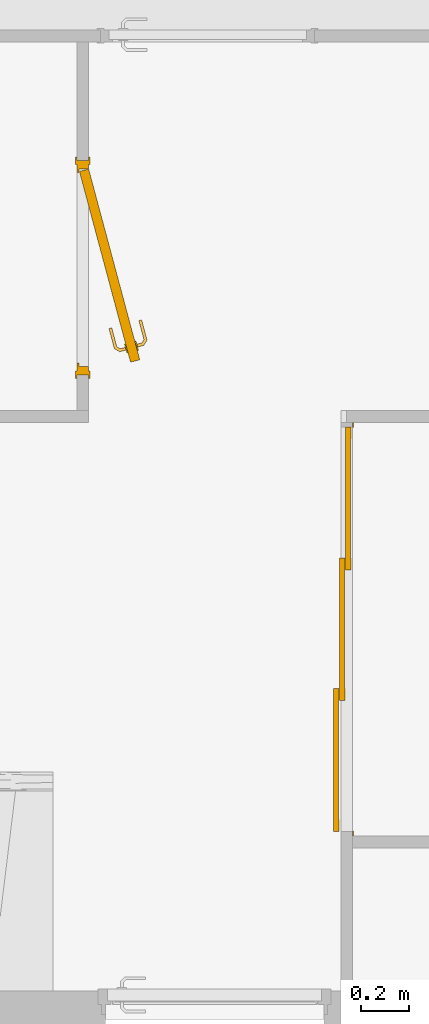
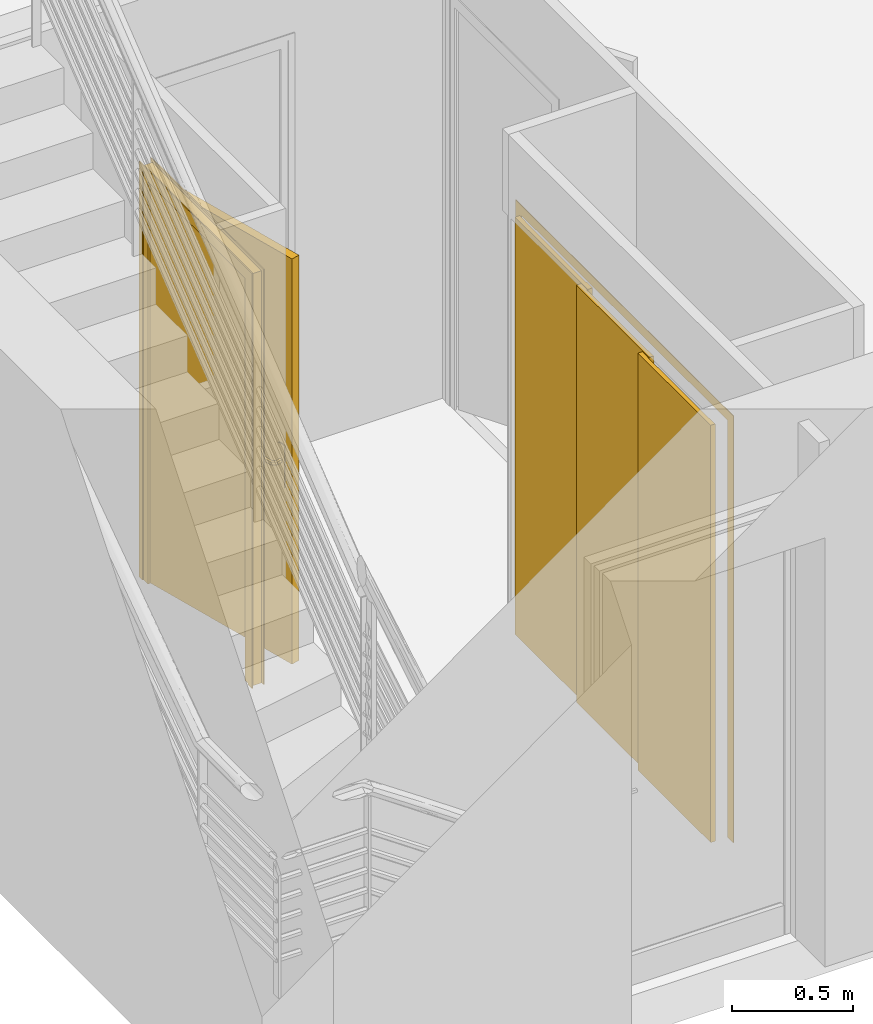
# One storey, part 6 of 13: 2 doors.
"""IFC2X3 building model written with IfcOpenShell, lengths in millimetres."""

from ifc_helpers import new_model, entity, si_unit, converted_unit, direction, frame, origin, origin_with_axes, place, context, project, spatial, faceted_brep, element, save


model = new_model("IFC2X3")

# Units and contexts
model_context = context("Model", 3, precision=1e-05, world=origin(), true_north=direction((0.0, 1.0, 0.0)))
ifc_project = project(units=[si_unit("LENGTHUNIT", "METRE", prefix="MILLI"), si_unit("AREAUNIT", "SQUARE_METRE"), si_unit("VOLUMEUNIT", "CUBIC_METRE"), converted_unit("PLANEANGLEUNIT", "DEGREE", entity("IfcPlaneAngleMeasure", 0.01745), si_unit("PLANEANGLEUNIT", "RADIAN"), dimensions=[0, 0, 0, 0, 0, 0, 0]), si_unit("SOLIDANGLEUNIT", "STERADIAN"), si_unit("MASSUNIT", "GRAM"), si_unit("TIMEUNIT", "SECOND"), si_unit("THERMODYNAMICTEMPERATUREUNIT", "DEGREE_CELSIUS"), si_unit("LUMINOUSINTENSITYUNIT", "LUMEN")], contexts=[model_context])

# Site, building, storey
placement = place(None, origin_with_axes())
site_placement = place(placement, frame((11636.08881703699, 2815.7442167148, 4.768371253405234e-06), z_axis=(0.0, 0.0, 1.0), x_axis=(1.0, 0.0, 0.0)))
site = spatial("IfcSite", under=ifc_project, at=site_placement, Name="Surface", CompositionType="ELEMENT")
building_placement = place(placement, origin_with_axes())
building = spatial("IfcBuilding", under=site, at=building_placement, Name="Default Building", CompositionType="ELEMENT")
storey_placement = place(building_placement, origin_with_axes())
storey = spatial("IfcBuildingStorey", under=building, at=storey_placement, Name="Rez de chaussée", CompositionType="ELEMENT", Elevation=0.0)

# Doors
door_1_placement = place(storey_placement, frame((11636.08881703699, 2815.7442167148, 4.768371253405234e-06), z_axis=(0.0, 0.0, 1.0), x_axis=(1.0, 0.0, 0.0)))
element("IfcDoor", 1, at=door_1_placement, inside=storey, Name="IfcDoor - Int. Simple:PP (0.83m x 2.04m)", context=model_context, shape_type="Brep", body=[
    faceted_brep([(-9941.088819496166, 129.2557809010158, 4.291534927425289e-05), (-9946.088818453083, 99.25577970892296, 4.291534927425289e-05), (-9946.088818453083, 129.2557809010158, 4.291534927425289e-05), (-9941.088819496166, 99.25577970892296, 4.291534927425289e-05), (-9941.088819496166, 999.2557856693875, 4.291534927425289e-05), (-9946.088818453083, 1029.25578686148, 4.291534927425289e-05), (-9941.088819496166, 1029.25578686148, 4.291534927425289e-05), (-9946.088818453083, 999.2557856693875, 4.291534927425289e-05), (-9941.088819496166, 129.2557809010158, 2059.99998569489), (-9946.088818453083, 999.2557856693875, 2059.99998569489), (-9941.088819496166, 999.2557856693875, 2059.99998569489), (-9946.088818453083, 129.2557809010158, 2059.99998569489), (-9946.088818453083, 99.25577970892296, 2089.999957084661), (-9941.088819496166, 1029.25578686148, 2089.999957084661), (-9946.088818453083, 1029.25578686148, 2089.999957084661), (-9941.088819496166, 99.25577970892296, 2089.999957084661), (-9996.088819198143, 129.2557809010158, 2059.99998569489), (-10001.08881815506, 999.2557856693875, 2059.99998569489), (-9996.088819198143, 999.2557856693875, 2059.99998569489), (-10001.08881815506, 129.2557809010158, 2059.99998569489), (-10001.08881815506, 99.25577970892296, 2089.999957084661), (-9996.088819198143, 1029.25578686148, 2089.999957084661), (-10001.08881815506, 1029.25578686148, 2089.999957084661), (-9996.088819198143, 99.25577970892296, 2089.999957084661), (-9996.088819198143, 1029.25578686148, 4.291534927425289e-05), (-10001.08881815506, 1029.25578686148, 4.291534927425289e-05), (-10001.08881815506, 999.2557856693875, 4.291534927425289e-05), (-9996.088819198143, 999.2557856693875, 4.291534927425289e-05), (-9996.088819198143, 129.2557809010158, 4.291534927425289e-05), (-10001.08881815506, 129.2557809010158, 4.291534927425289e-05), (-10001.08881815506, 99.25577970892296, 4.291534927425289e-05), (-9996.088819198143, 99.25577970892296, 4.291534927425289e-05), (-9946.088818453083, 149.2557916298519, 2040.000004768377), (-9986.088818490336, 979.2557749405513, 2040.000004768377), (-9946.088818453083, 979.2557749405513, 2040.000004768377), (-9986.088818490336, 149.2557916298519, 2040.000004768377), (-9986.088818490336, 164.2557773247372, 2025.000019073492), (-9996.088819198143, 964.2557892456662, 2025.000019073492), (-9986.088818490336, 964.2557892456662, 2025.000019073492), (-9996.088819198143, 164.2557773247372, 2025.000019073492), (-9996.088819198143, 114.2557952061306, 2074.999971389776), (-9946.088818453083, 1014.255771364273, 2074.999971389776), (-9996.088819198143, 1014.255771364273, 2074.999971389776), (-9946.088818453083, 114.2557952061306, 2074.999971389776), (-9986.088818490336, 979.2557749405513, 4.291534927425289e-05), (-9946.088818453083, 979.2557749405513, 4.291534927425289e-05), (-9996.088819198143, 964.2557892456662, 4.291534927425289e-05), (-9986.088818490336, 964.2557892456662, 4.291534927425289e-05), (-9996.088819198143, 1014.255771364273, 4.291534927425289e-05), (-9946.088818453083, 1014.255771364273, 4.291534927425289e-05), (-9946.088818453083, 149.2557916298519, 4.291534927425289e-05), (-9946.088818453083, 114.2557952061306, 4.291534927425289e-05), (-9986.088818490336, 149.2557916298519, 4.291534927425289e-05), (-9986.088818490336, 164.2557773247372, 4.291534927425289e-05), (-9996.088819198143, 164.2557773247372, 4.291534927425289e-05), (-9996.088819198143, 114.2557952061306, 4.291534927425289e-05), (-9769.906043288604, 167.1845823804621, 2039.999980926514), (-9731.269016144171, 177.5373429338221, 1.907348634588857e-05), (-9731.269016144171, 177.5373429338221, 2039.999980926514), (-9769.906043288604, 167.1845823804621, 1.907348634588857e-05), (-9946.088819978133, 979.2557865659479, 1.907348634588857e-05), (-9984.725847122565, 968.9030260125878, 1.907348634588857e-05), (-9946.088819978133, 979.2557865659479, 2039.999980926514), (-9984.725847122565, 968.9030260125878, 2039.999980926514), (-9834.49478924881, 226.6552981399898, 992.2195583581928), (-9843.869925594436, 269.4689247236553, 992.1213131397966), (-9831.016463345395, 229.3243121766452, 992.2195583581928), (-9848.242716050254, 262.6061805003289, 992.99999922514), (-9852.81080857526, 310.6619093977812, 992.2195583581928), (-9838.287421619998, 271.8169654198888, 992.99999922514), (-9856.723384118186, 309.6135382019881, 992.2195583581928), (-9848.971539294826, 311.6906371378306, 992.99999922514), (-9827.603311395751, 231.943317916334, 992.99999922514), (-9837.907944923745, 224.0362924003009, 992.99999922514), (-9860.56265339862, 308.5848104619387, 992.99999922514), (-9848.242716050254, 262.6061814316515, 1007.000001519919), (-9860.56265339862, 308.5848104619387, 1007.000001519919), (-9837.907944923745, 224.0362924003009, 1007.000001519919), (-9856.723384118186, 309.6135382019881, 1007.780442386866), (-9843.869925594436, 269.4689242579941, 1007.878685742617), (-9852.81080857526, 310.6619093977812, 1007.780442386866), (-9831.016463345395, 229.3243121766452, 1007.780442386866), (-9838.287425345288, 271.8169768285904, 1007.000001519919), (-9834.49478924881, 226.6552981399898, 1007.780442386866), (-9848.971539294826, 311.6906371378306, 1007.000001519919), (-9827.603311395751, 231.943317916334, 1007.000001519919), (-9813.536771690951, 223.8219950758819, 992.99999922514), (-9814.098318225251, 219.5566159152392, 992.2195583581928), (-9814.67058987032, 215.2097907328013, 992.2195583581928), (-9815.232136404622, 210.9444078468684, 992.99999922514), (-9815.232136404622, 210.9444078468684, 1007.000001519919), (-9814.67058987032, 215.2097907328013, 1007.780442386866), (-9814.098318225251, 219.5566159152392, 1007.780442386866), (-9813.536771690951, 223.8219950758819, 1007.000001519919), (-9791.817730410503, 229.6415951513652, 992.99999922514), (-9790.789001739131, 225.8023295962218, 992.2195583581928), (-9789.740630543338, 221.8897503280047, 992.2195583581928), (-9788.711901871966, 218.0504847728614, 992.99999922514), (-9788.711901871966, 218.0504847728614, 1007.000001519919), (-9789.740630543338, 221.8897503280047, 1007.780442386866), (-9790.789001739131, 225.8023295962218, 1007.780442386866), (-9791.817730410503, 229.6415951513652, 1007.000001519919), (-9723.395464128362, 345.3105476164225, 1007.000001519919), (-9711.046972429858, 299.225340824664, 992.99999922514), (-9723.395464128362, 345.3105476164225, 992.99999922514), (-9700.71219012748, 260.6554238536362, 992.99999922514), (-9700.71219012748, 260.6554238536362, 1007.000001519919), (-9727.234733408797, 344.2818161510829, 992.2195583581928), (-9718.279563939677, 303.0355286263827, 992.1213131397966), (-9731.147308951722, 343.2334449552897, 992.2195583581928), (-9709.32439819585, 261.7892420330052, 992.2195583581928), (-9724.288177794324, 302.2777524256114, 992.99999922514), (-9704.977573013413, 261.2169713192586, 992.2195583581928), (-9734.986574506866, 342.2047134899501, 992.99999922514), (-9713.589781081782, 262.3507904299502, 992.99999922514), (-9724.288177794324, 302.2777524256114, 1007.000001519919), (-9713.589781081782, 262.3507904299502, 1007.000001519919), (-9734.986574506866, 342.2047134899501, 1007.000001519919), (-9704.977573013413, 261.2169713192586, 1007.780442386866), (-9718.279563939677, 303.0355286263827, 1007.878685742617), (-9709.32439819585, 261.7892420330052, 1007.780442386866), (-9711.046964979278, 299.2253128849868, 1007.000001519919), (-9731.147308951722, 343.2334449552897, 1007.780442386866), (-9727.234733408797, 344.2818161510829, 1007.780442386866), (-9713.706844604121, 238.1480310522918, 1007.000001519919), (-9713.706844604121, 238.1480310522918, 992.99999922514), (-9716.32585034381, 241.5611830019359, 992.2195583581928), (-9718.994860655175, 245.0395107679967, 992.2195583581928), (-9721.613866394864, 248.4526627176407, 992.99999922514), (-9721.613866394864, 248.4526627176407, 1007.000001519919), (-9718.994860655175, 245.0395107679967, 1007.780442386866), (-9716.32585034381, 241.5611830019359, 1007.780442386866), (-9740.415611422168, 230.9914354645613, 1007.000001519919), (-9740.415611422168, 230.9914354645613, 992.99999922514), (-9741.444339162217, 234.830704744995, 992.2195583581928), (-9742.49271035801, 238.7432802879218, 992.2195583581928), (-9743.521438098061, 242.5825458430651, 992.99999922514), (-9743.521438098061, 242.5825458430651, 1007.000001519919), (-9742.49271035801, 238.7432802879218, 1007.780442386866), (-9741.444339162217, 234.830704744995, 1007.780442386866), (-9790.61156802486, 244.4586523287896, 1079.999996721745), (-9795.441197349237, 243.1645553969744, 870.0000032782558), (-9795.441197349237, 243.1645553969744, 1079.999996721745), (-9790.61156802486, 244.4586523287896, 870.0000032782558), (-9792.944308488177, 233.8460397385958, 866.0039812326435), (-9788.1146791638, 235.1401348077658, 866.0039812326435), (-9790.264816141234, 223.8460418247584, 864.6410167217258), (-9785.435187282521, 225.1401368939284, 864.6410167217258), (-9782.755695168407, 215.1401352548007, 866.0039812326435), (-9787.585324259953, 213.8460401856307, 866.0039812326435), (-9785.088435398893, 204.5275208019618, 870.0000032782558), (-9780.25880624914, 205.8216195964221, 870.0000032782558), (-9785.088435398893, 204.5275208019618, 1079.999996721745), (-9780.25880624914, 205.8216195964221, 1079.999996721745), (-9787.585324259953, 213.8460401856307, 1083.996018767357), (-9782.755695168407, 215.1401352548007, 1083.996018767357), (-9790.264816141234, 223.8460418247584, 1085.358983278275), (-9785.435187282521, 225.1401368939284, 1085.358983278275), (-9788.1146791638, 235.1401348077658, 1083.996018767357), (-9792.944308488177, 233.8460397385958, 1083.996018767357), (-9736.792144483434, 217.4684752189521, 870.0000032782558), (-9741.621774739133, 216.1743801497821, 1079.999996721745), (-9741.621774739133, 216.1743801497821, 870.0000032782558), (-9736.792144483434, 217.4684752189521, 1079.999996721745), (-9744.118661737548, 225.4928958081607, 1083.996018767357), (-9739.289031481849, 226.7869908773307, 1083.996018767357), (-9746.798155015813, 235.4928974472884, 1085.358983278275), (-9741.968524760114, 236.7869925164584, 1085.358983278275), (-9744.64801803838, 246.786992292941, 1083.996018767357), (-9749.477646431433, 245.492897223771, 1083.996018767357), (-9751.974535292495, 254.8114128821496, 1079.999996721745), (-9747.144905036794, 256.1055079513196, 1079.999996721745), (-9751.974535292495, 254.8114128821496, 870.0000032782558), (-9747.144905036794, 256.1055079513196, 870.0000032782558), (-9749.477646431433, 245.492897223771, 866.0039812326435), (-9744.64801803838, 246.786992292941, 866.0039812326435), (-9746.798155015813, 235.4928974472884, 864.6410167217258), (-9741.968524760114, 236.7869925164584, 864.6410167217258), (-9739.289031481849, 226.7869908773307, 866.0039812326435), (-9744.118661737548, 225.4928958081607, 866.0039812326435)], [[[0, 1, 2]], [[0, 3, 1]], [[4, 5, 6]], [[4, 7, 5]], [[8, 9, 10]], [[8, 11, 9]], [[12, 13, 14]], [[12, 15, 13]], [[14, 6, 5]], [[14, 13, 6]], [[10, 7, 4]], [[10, 9, 7]], [[0, 11, 8]], [[0, 2, 11]], [[12, 9, 11]], [[14, 9, 12]], [[14, 7, 9]], [[7, 14, 5]], [[11, 1, 12]], [[1, 11, 2]], [[1, 15, 12]], [[1, 3, 15]], [[13, 10, 6]], [[13, 8, 10]], [[15, 8, 13]], [[15, 0, 8]], [[0, 15, 3]], [[6, 10, 4]], [[16, 17, 18]], [[16, 19, 17]], [[20, 21, 22]], [[20, 23, 21]], [[22, 24, 25]], [[22, 21, 24]], [[18, 26, 27]], [[18, 17, 26]], [[27, 25, 24]], [[27, 26, 25]], [[28, 19, 16]], [[28, 29, 19]], [[20, 17, 19]], [[22, 17, 20]], [[22, 26, 17]], [[26, 22, 25]], [[19, 30, 20]], [[30, 19, 29]], [[30, 23, 20]], [[30, 31, 23]], [[21, 18, 24]], [[21, 16, 18]], [[23, 16, 21]], [[23, 28, 16]], [[28, 23, 31]], [[24, 18, 27]], [[28, 30, 29]], [[28, 31, 30]], [[32, 33, 34]], [[32, 35, 33]], [[36, 37, 38]], [[36, 39, 37]], [[40, 41, 42]], [[40, 43, 41]], [[34, 44, 45]], [[34, 33, 44]], [[38, 46, 47]], [[38, 37, 46]], [[46, 44, 47]], [[48, 44, 46]], [[48, 45, 44]], [[45, 48, 49]], [[42, 49, 48]], [[42, 41, 49]], [[41, 34, 49]], [[41, 32, 34]], [[43, 32, 41]], [[43, 50, 32]], [[50, 43, 51]], [[49, 34, 45]], [[50, 35, 32]], [[50, 52, 35]], [[33, 38, 44]], [[33, 36, 38]], [[35, 36, 33]], [[35, 53, 36]], [[53, 35, 52]], [[44, 38, 47]], [[53, 39, 36]], [[53, 54, 39]], [[40, 54, 55]], [[40, 39, 54]], [[40, 37, 39]], [[42, 37, 40]], [[42, 46, 37]], [[46, 42, 48]], [[55, 43, 40]], [[55, 51, 43]], [[53, 55, 54]], [[52, 55, 53]], [[50, 55, 52]], [[55, 50, 51]], [[56, 57, 58]], [[56, 59, 57]], [[59, 60, 57]], [[59, 61, 60]], [[61, 62, 60]], [[61, 63, 62]], [[63, 58, 62]], [[63, 56, 58]], [[58, 60, 62]], [[58, 57, 60]], [[56, 61, 59]], [[56, 63, 61]], [[64, 65, 66]], [[64, 67, 65]], [[68, 69, 65]], [[70, 68, 65]], [[69, 68, 71]], [[72, 66, 69]], [[65, 69, 66]], [[64, 73, 67]], [[74, 70, 67]], [[67, 70, 65]], [[74, 75, 76]], [[67, 75, 74]], [[73, 75, 67]], [[75, 73, 77]], [[78, 79, 80]], [[81, 82, 79]], [[83, 81, 79]], [[75, 83, 79]], [[77, 83, 75]], [[76, 75, 78]], [[82, 84, 80]], [[85, 82, 81]], [[75, 79, 78]], [[82, 80, 79]], [[84, 72, 71]], [[82, 72, 84]], [[72, 82, 85]], [[76, 70, 74]], [[78, 70, 76]], [[78, 68, 70]], [[80, 68, 78]], [[80, 71, 68]], [[71, 80, 84]], [[66, 86, 87]], [[66, 72, 86]], [[73, 88, 89]], [[73, 64, 88]], [[89, 77, 73]], [[89, 90, 77]], [[83, 90, 91]], [[83, 77, 90]], [[85, 92, 93]], [[85, 81, 92]], [[93, 72, 85]], [[93, 86, 72]], [[87, 94, 95]], [[87, 86, 94]], [[87, 64, 66]], [[87, 88, 64]], [[95, 88, 87]], [[88, 95, 96]], [[89, 96, 97]], [[89, 88, 96]], [[97, 90, 89]], [[97, 98, 90]], [[91, 98, 99]], [[91, 90, 98]], [[83, 92, 81]], [[91, 92, 83]], [[91, 100, 92]], [[100, 91, 99]], [[93, 100, 101]], [[93, 92, 100]], [[101, 86, 93]], [[101, 94, 86]], [[96, 98, 97]], [[96, 99, 98]], [[95, 99, 96]], [[95, 100, 99]], [[94, 100, 95]], [[100, 94, 101]], [[102, 103, 104]], [[102, 105, 103]], [[102, 106, 105]], [[107, 108, 109]], [[110, 111, 108]], [[112, 110, 108]], [[103, 112, 108]], [[105, 112, 103]], [[104, 103, 107]], [[111, 113, 109]], [[114, 111, 110]], [[103, 108, 107]], [[111, 109, 108]], [[115, 114, 116]], [[117, 114, 115]], [[113, 114, 117]], [[118, 119, 120]], [[118, 121, 119]], [[122, 115, 119]], [[123, 122, 119]], [[115, 122, 117]], [[116, 120, 115]], [[119, 115, 120]], [[118, 106, 121]], [[102, 123, 121]], [[121, 123, 119]], [[117, 109, 113]], [[122, 109, 117]], [[122, 107, 109]], [[123, 107, 122]], [[123, 104, 107]], [[104, 123, 102]], [[124, 105, 106]], [[124, 125, 105]], [[112, 125, 126]], [[112, 105, 125]], [[114, 127, 128]], [[114, 110, 127]], [[128, 116, 114]], [[128, 129, 116]], [[120, 129, 130]], [[120, 116, 129]], [[106, 131, 124]], [[106, 118, 131]], [[132, 125, 124]], [[132, 133, 125]], [[126, 133, 134]], [[126, 125, 133]], [[112, 127, 110]], [[126, 127, 112]], [[126, 135, 127]], [[135, 126, 134]], [[128, 135, 136]], [[128, 127, 135]], [[136, 129, 128]], [[136, 137, 129]], [[130, 137, 138]], [[130, 129, 137]], [[130, 118, 120]], [[130, 131, 118]], [[138, 131, 130]], [[131, 138, 139]], [[124, 139, 132]], [[124, 131, 139]], [[136, 138, 137]], [[135, 138, 136]], [[135, 139, 138]], [[134, 139, 135]], [[134, 132, 139]], [[132, 134, 133]], [[140, 141, 142]], [[140, 143, 141]], [[144, 143, 145]], [[144, 141, 143]], [[146, 145, 147]], [[146, 144, 145]], [[148, 146, 147]], [[148, 149, 146]], [[150, 148, 151]], [[150, 149, 148]], [[151, 152, 150]], [[151, 153, 152]], [[154, 153, 155]], [[154, 152, 153]], [[156, 155, 157]], [[156, 154, 155]], [[158, 156, 157]], [[158, 159, 156]], [[142, 158, 140]], [[142, 159, 158]], [[146, 141, 144]], [[149, 141, 146]], [[150, 141, 149]], [[150, 142, 141]], [[150, 159, 142]], [[150, 156, 159]], [[150, 154, 156]], [[154, 150, 152]], [[157, 140, 158]], [[155, 140, 157]], [[153, 140, 155]], [[153, 143, 140]], [[153, 145, 143]], [[153, 147, 145]], [[153, 148, 147]], [[148, 153, 151]], [[160, 161, 162]], [[160, 163, 161]], [[164, 163, 165]], [[164, 161, 163]], [[166, 165, 167]], [[166, 164, 165]], [[168, 166, 167]], [[168, 169, 166]], [[170, 168, 171]], [[170, 169, 168]], [[171, 172, 170]], [[171, 173, 172]], [[174, 173, 175]], [[174, 172, 173]], [[176, 175, 177]], [[176, 174, 175]], [[178, 176, 177]], [[178, 179, 176]], [[162, 178, 160]], [[162, 179, 178]], [[176, 172, 174]], [[179, 172, 176]], [[162, 172, 179]], [[162, 170, 172]], [[162, 169, 170]], [[162, 166, 169]], [[162, 164, 166]], [[164, 162, 161]], [[167, 171, 168]], [[165, 171, 167]], [[163, 171, 165]], [[163, 173, 171]], [[163, 175, 173]], [[163, 177, 175]], [[163, 178, 177]], [[178, 163, 160]]]),
])
door_2_placement = place(storey_placement, frame((11636.08881703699, 2815.7442167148, 4.768371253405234e-06), z_axis=(0.0, 0.0, 1.0), x_axis=(1.0, 0.0, 0.0)))
element("IfcDoor", 2, at=door_2_placement, inside=storey, Name="IfcDoor - Placard coulissante - 3 panneaux:Placard coulissante - 3 panneaux", context=model_context, shape_type="Brep", body=[
    faceted_brep([(-8871.088819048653, -655.7442047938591, 2099.999952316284), (-8891.088818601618, -1255.744228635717, 2099.999952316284), (-8871.088819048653, -1255.744228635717, 2099.999952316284), (-8891.088818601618, -655.7442047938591, 2099.999952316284), (-8871.088819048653, -1255.744228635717, 4.768371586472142e-05), (-8891.088818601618, -655.7442047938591, 4.768371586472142e-05), (-8871.088819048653, -655.7442047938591, 4.768371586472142e-05), (-8891.088818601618, -1255.744228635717, 4.768371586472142e-05), (-8846.088818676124, -105.7441928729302, 2099.999952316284), (-8866.088819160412, -705.7442167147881, 2099.999952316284), (-8846.088818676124, -705.7442167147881, 2099.999952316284), (-8866.088819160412, -105.7441928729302, 2099.999952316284), (-8846.088818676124, -705.7442167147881, 4.768371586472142e-05), (-8866.088819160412, -105.7441928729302, 4.768371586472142e-05), (-8846.088818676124, -105.7441928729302, 4.768371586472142e-05), (-8866.088819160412, -705.7442167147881, 4.768371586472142e-05), (-8916.088818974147, -1205.744216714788, 2099.999952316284), (-8896.08881848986, -1805.744240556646, 2099.999952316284), (-8896.08881848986, -1205.744216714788, 2099.999952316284), (-8916.088818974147, -1805.744240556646, 2099.999952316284), (-8896.08881848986, -1205.744216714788, 4.768371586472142e-05), (-8916.088818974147, -1805.744240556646, 4.768371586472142e-05), (-8916.088818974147, -1205.744216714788, 4.768371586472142e-05), (-8896.08881848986, -1805.744240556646, 4.768371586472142e-05), (-8836.08881883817, -57.74421480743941, 2148.000000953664), (-8836.08881883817, -107.7442267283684, 2098.00004863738), (-8836.08881883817, -1853.744218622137, 2148.000000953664), (-8836.08881883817, -57.74421480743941, -9.536846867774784e-07), (-8836.08881883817, -107.7442267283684, -9.536846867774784e-07), (-8836.08881883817, -1803.744206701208, 2098.00004863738), (-8836.08881883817, -1803.744206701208, -9.536846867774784e-07), (-8836.08881883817, -1853.744218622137, -9.536846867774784e-07), (-8833.088818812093, -1853.744218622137, 2148.000000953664), (-8833.088818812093, -1803.744206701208, 2098.00004863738), (-8833.088818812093, -57.74421480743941, 2148.000000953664), (-8833.088818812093, -1853.744218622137, -9.536846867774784e-07), (-8833.088818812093, -1803.744206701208, -9.536846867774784e-07), (-8833.088818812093, -107.7442267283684, 2098.00004863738), (-8833.088818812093, -107.7442267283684, -9.536846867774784e-07), (-8833.088818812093, -57.74421480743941, -9.536846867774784e-07), (-8894.088819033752, -1805.744240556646, 2099.999952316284), (-8894.088819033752, -1755.744228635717, 2099.999952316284), (-8896.088819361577, -1805.744240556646, 2099.999952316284), (-8896.088819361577, -1755.744228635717, 2099.999952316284), (-8894.088819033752, -1805.744240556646, 4.768371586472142e-05), (-8896.088819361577, -1805.744240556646, 4.768371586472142e-05), (-8894.088819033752, -1755.744228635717, 4.768371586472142e-05), (-8896.088819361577, -1755.744228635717, 4.768371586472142e-05), (-8846.088818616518, -105.74419287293, 2099.999952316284), (-8846.088818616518, -155.744204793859, 2099.999952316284), (-8844.088818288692, -105.74419287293, 2099.999952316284), (-8844.088818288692, -155.744204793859, 2099.999952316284), (-8846.088818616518, -105.74419287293, 4.768371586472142e-05), (-8844.088818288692, -105.74419287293, 4.768371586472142e-05), (-8846.088818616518, -155.744204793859, 4.768371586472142e-05), (-8844.088818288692, -155.744204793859, 4.768371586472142e-05), (-8869.088818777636, -1255.744228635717, 2099.999952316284), (-8869.088818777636, -1205.744216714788, 2099.999952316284), (-8871.088818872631, -1255.744228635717, 2099.999952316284), (-8871.088818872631, -1205.744216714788, 2099.999952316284), (-8869.088818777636, -1255.744228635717, 4.768371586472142e-05), (-8871.088818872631, -1255.744228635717, 4.768371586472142e-05), (-8869.088818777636, -1205.744216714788, 4.768371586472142e-05), (-8871.088818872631, -1205.744216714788, 4.768371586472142e-05), (-8871.088818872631, -655.744204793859, 2099.999952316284), (-8871.088818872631, -705.744216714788, 2099.999952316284), (-8869.088818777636, -655.744204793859, 2099.999952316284), (-8869.088818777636, -705.744216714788, 2099.999952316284), (-8871.088818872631, -655.744204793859, 4.768371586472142e-05), (-8869.088818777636, -655.744204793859, 4.768371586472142e-05), (-8871.088818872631, -705.744216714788, 4.768371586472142e-05), (-8869.088818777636, -705.744216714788, 4.768371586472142e-05), (-8894.088819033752, -1255.744228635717, 2099.999952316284), (-8894.088819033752, -1205.744216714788, 2099.999952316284), (-8896.088819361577, -1255.744228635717, 2099.999952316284), (-8896.088819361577, -1205.744216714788, 2099.999952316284), (-8894.088819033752, -1255.744228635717, 4.768371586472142e-05), (-8896.088819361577, -1255.744228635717, 4.768371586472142e-05), (-8894.088819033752, -1205.744216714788, 4.768371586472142e-05), (-8896.088819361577, -1205.744216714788, 4.768371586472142e-05), (-8846.088818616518, -655.744204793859, 2099.999952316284), (-8846.088818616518, -705.744216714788, 2099.999952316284), (-8844.088818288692, -655.744204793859, 2099.999952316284), (-8844.088818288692, -705.744216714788, 2099.999952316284), (-8846.088818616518, -655.744204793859, 4.768371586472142e-05), (-8844.088818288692, -655.744204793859, 4.768371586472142e-05), (-8846.088818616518, -705.744216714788, 4.768371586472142e-05), (-8844.088818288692, -705.744216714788, 4.768371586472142e-05)], [[[0, 1, 2]], [[0, 3, 1]], [[4, 5, 6]], [[4, 7, 5]], [[3, 6, 5]], [[3, 0, 6]], [[1, 5, 7]], [[1, 3, 5]], [[2, 7, 4]], [[2, 1, 7]], [[0, 4, 6]], [[0, 2, 4]], [[8, 9, 10]], [[8, 11, 9]], [[12, 13, 14]], [[12, 15, 13]], [[11, 14, 13]], [[11, 8, 14]], [[9, 13, 15]], [[9, 11, 13]], [[10, 15, 12]], [[10, 9, 15]], [[8, 12, 14]], [[8, 10, 12]], [[16, 17, 18]], [[16, 19, 17]], [[20, 21, 22]], [[20, 23, 21]], [[19, 22, 21]], [[19, 16, 22]], [[17, 21, 23]], [[17, 19, 21]], [[18, 23, 20]], [[18, 17, 23]], [[16, 20, 22]], [[16, 18, 20]], [[24, 25, 26]], [[27, 25, 24]], [[25, 27, 28]], [[29, 26, 25]], [[30, 26, 29]], [[26, 30, 31]], [[32, 33, 34]], [[35, 33, 32]], [[33, 35, 36]], [[37, 34, 33]], [[38, 34, 37]], [[34, 38, 39]], [[26, 35, 32]], [[26, 31, 35]], [[24, 32, 34]], [[24, 26, 32]], [[27, 34, 39]], [[27, 24, 34]], [[28, 39, 38]], [[28, 27, 39]], [[25, 38, 37]], [[25, 28, 38]], [[29, 37, 33]], [[29, 25, 37]], [[30, 33, 36]], [[30, 29, 33]], [[31, 36, 35]], [[31, 30, 36]], [[40, 41, 42]], [[43, 42, 41]], [[44, 45, 46]], [[47, 46, 45]], [[40, 44, 41]], [[46, 41, 44]], [[42, 47, 45]], [[42, 43, 47]], [[40, 45, 44]], [[40, 42, 45]], [[43, 46, 47]], [[43, 41, 46]], [[48, 49, 50]], [[51, 50, 49]], [[52, 53, 54]], [[55, 54, 53]], [[51, 55, 50]], [[53, 50, 55]], [[49, 52, 54]], [[49, 48, 52]], [[51, 54, 55]], [[51, 49, 54]], [[48, 53, 52]], [[48, 50, 53]], [[56, 57, 58]], [[59, 58, 57]], [[60, 61, 62]], [[63, 62, 61]], [[56, 60, 57]], [[62, 57, 60]], [[58, 63, 61]], [[58, 59, 63]], [[56, 61, 60]], [[56, 58, 61]], [[59, 62, 63]], [[59, 57, 62]], [[64, 65, 66]], [[67, 66, 65]], [[68, 69, 70]], [[71, 70, 69]], [[67, 71, 66]], [[69, 66, 71]], [[65, 68, 70]], [[65, 64, 68]], [[67, 70, 71]], [[67, 65, 70]], [[64, 69, 68]], [[64, 66, 69]], [[72, 73, 74]], [[75, 74, 73]], [[76, 77, 78]], [[79, 78, 77]], [[72, 76, 73]], [[78, 73, 76]], [[74, 79, 77]], [[74, 75, 79]], [[72, 77, 76]], [[72, 74, 77]], [[75, 78, 79]], [[75, 73, 78]], [[80, 81, 82]], [[83, 82, 81]], [[84, 85, 86]], [[87, 86, 85]], [[83, 87, 82]], [[85, 82, 87]], [[81, 84, 86]], [[81, 80, 84]], [[83, 86, 87]], [[83, 81, 86]], [[80, 85, 84]], [[80, 82, 85]]]),
])

save(model, "model.ifc")
